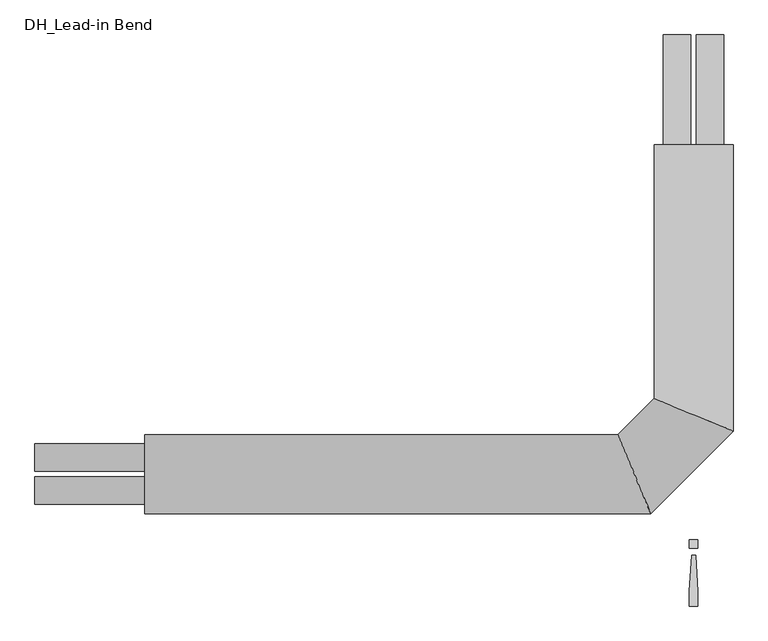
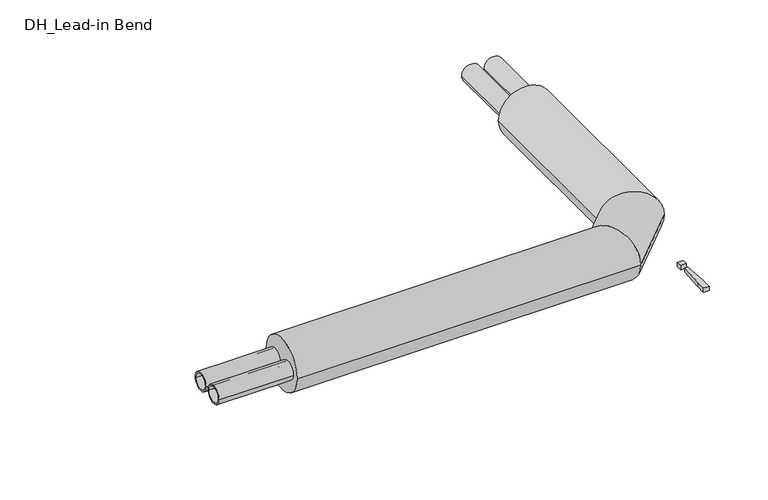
"""IFC4 building model written with IfcOpenShell, lengths in millimetres: pipe fitting geometry, DH_Lead-in Bend : INSULPEX DUO 11 Heating Vertical."""

from ifc_helpers import new_model, si_unit, point, frame, frame_2d, origin, origin_with_axes, place, context, project, spatial, polyline, circle_curve, ellipse_curve, trimmed, segment, composite_curve, outline, extrude, source, transform, mapped, element, save
from ifc_brep_helpers import plane_surface, cylinder_surface, advanced_brep


def dh_lead_in_bend_9b5e54dc(model_context):
    return source(origin(), model_context, "Body", "SolidModel", [
        extrude(outline(composite_curve([segment(trimmed(circle_curve(frame_2d((-37.5, 0.0)), 31.5), [point((-6.0, 0.0))], [point((-69.0, 0.0))], False, "CARTESIAN"), True, "CONTINUOUS"), segment(trimmed(circle_curve(frame_2d((-37.5, 0.0)), 31.5), [point((-69.0, 0.0))], [point((-6.0, 0.0))], False, "CARTESIAN"), True, "CONTINUOUS")], self_intersect=False), holes=[composite_curve([segment(trimmed(circle_curve(frame_2d((-37.5, 0.0)), 25.7), [point((-11.8, 0.0))], [point((-63.2, 0.0))], True, "CARTESIAN"), True, "CONTINUOUS"), segment(trimmed(circle_curve(frame_2d((-37.5, 0.0)), 25.7), [point((-63.2, 0.0))], [point((-11.8, 0.0))], True, "CARTESIAN"), True, "CONTINUOUS")], self_intersect=False)]), frame((-1500.0, 0.0, 0.0), z_axis=(1.0, 0.0, 0.0), x_axis=(0.0, 1.0, 0.0)), (0.0, 0.0, 1.0), 250.0),
        advanced_brep(
        [(-1250.0, -90.0, 0.0), (-1250.0, 90.0, 0.0), (-97.7207794, -90.0, 0.0), (-172.2792206, 90.0, 0.0), (90.0, 750.0, 0.0), (-90.0, 750.0, 0.0), (-90.0, 172.2792206, 0.0), (90.0, 97.7207794, 0.0)],
        [
            (0, 1, circle_curve(frame((-1250.0, 0.0, 0.0), z_axis=(-1.0, 0.0, 0.0), x_axis=(0.0, 1.0, 0.0)), 90.0)),
            (1, 0, circle_curve(frame((-1250.0, 0.0, 0.0), z_axis=(-1.0, 0.0, 0.0), x_axis=(0.0, 1.0, 0.0)), 90.0)),
            (0, 2),
            (2, 3, ellipse_curve(frame((-135.0, 0.0, 0.0), z_axis=(-0.9238795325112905, -0.3826834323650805, 0.0), x_axis=(-0.38268343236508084, 0.9238795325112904, 0.0)), 97.415298, 90.0)),
            (3, 1),
            (3, 2, ellipse_curve(frame((-135.0, 0.0, 0.0), z_axis=(-0.9238795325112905, -0.3826834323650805, 0.0), x_axis=(-0.38268343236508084, 0.9238795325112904, 0.0)), 97.415298, 90.0)),
            (4, 5, circle_curve(frame((0.0, 750.0, 0.0), z_axis=(0.0, 1.0, 0.0), x_axis=(-1.0, 0.0, 0.0)), 90.0)),
            (5, 4, circle_curve(frame((0.0, 750.0, 0.0), z_axis=(0.0, 1.0, 0.0), x_axis=(-1.0, 0.0, 0.0)), 90.0)),
            (6, 7, ellipse_curve(frame((0.0, 135.0, 0.0), z_axis=(0.382683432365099, 0.923879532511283, 0.0), x_axis=(0.923879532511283, -0.3826834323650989, 0.0)), 97.415298, 90.0)),
            (7, 4),
            (5, 6),
            (7, 6, ellipse_curve(frame((0.0, 135.0, 0.0), z_axis=(0.382683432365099, 0.923879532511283, 0.0), x_axis=(0.923879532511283, -0.3826834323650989, 0.0)), 97.415298, 90.0)),
            (2, 7),
            (6, 3),
        ],
        [
            plane_surface(frame((-1250.0, 0.0, 0.0), z_axis=(-1.0, 0.0, 0.0), x_axis=(0.0, 0.0, 1.0))),
            cylinder_surface(frame((-1250.0, 0.0, 0.0), z_axis=(-1.0, 0.0, 0.0), x_axis=(0.0, 1.0, 0.0)), 90.0),
            plane_surface(frame((0.0, 750.0, 0.0), z_axis=(0.0, 1.0, 0.0), x_axis=(0.0, 0.0, 1.0))),
            cylinder_surface(frame((0.0, 135.0, 0.0), z_axis=(0.0, -1.0, 0.0), x_axis=(-1.0, 0.0, 0.0)), 90.0),
            cylinder_surface(frame((-135.0, 0.0, 0.0), z_axis=(-0.7071067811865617, -0.7071067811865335, 0.0), x_axis=(-0.7071067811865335, 0.7071067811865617, 0.0)), 90.0),
        ],
        [
            (0, [[1, 2]]),
            (1, [[-1, 3, 4, 5]]),
            (1, [[-2, -5, 6, -3]]),
            (2, [[7, 8]]),
            (3, [[9, 10, -8, 11]]),
            (3, [[12, -11, -7, -10]]),
            (4, [[-4, 13, -9, 14]]),
            (4, [[-6, -14, -12, -13]]),
        ],
    ),
        extrude(outline(composite_curve([segment(trimmed(circle_curve(frame_2d((0.0, -37.5)), 31.5), [point((0.0, -6.0))], [point((0.0, -69.0))], False, "CARTESIAN"), True, "CONTINUOUS"), segment(trimmed(circle_curve(frame_2d((0.0, -37.5)), 31.5), [point((0.0, -69.0))], [point((0.0, -6.0))], False, "CARTESIAN"), True, "CONTINUOUS")], self_intersect=False), holes=[composite_curve([segment(trimmed(circle_curve(frame_2d((0.0, -37.5)), 25.7), [point((0.0, -11.8))], [point((0.0, -63.2))], True, "CARTESIAN"), True, "CONTINUOUS"), segment(trimmed(circle_curve(frame_2d((0.0, -37.5)), 25.7), [point((0.0, -63.2))], [point((0.0, -11.8))], True, "CARTESIAN"), True, "CONTINUOUS")], self_intersect=False)]), frame((0.0, 750.0, 0.0), z_axis=(0.0, 1.0, 0.0), x_axis=(0.0, 0.0, 1.0)), (0.0, 0.0, 1.0), 250.0),
        extrude(outline(composite_curve([segment(trimmed(circle_curve(frame_2d((37.5, 0.0)), 31.5), [point((6.0, 0.0))], [point((69.0, 0.0))], False, "CARTESIAN"), True, "CONTINUOUS"), segment(trimmed(circle_curve(frame_2d((37.5, 0.0)), 31.5), [point((69.0, 0.0))], [point((6.0, 0.0))], False, "CARTESIAN"), True, "CONTINUOUS")], self_intersect=False), holes=[composite_curve([segment(trimmed(circle_curve(frame_2d((37.5, 0.0)), 25.7), [point((11.8, 0.0))], [point((63.2, 0.0))], True, "CARTESIAN"), True, "CONTINUOUS"), segment(trimmed(circle_curve(frame_2d((37.5, 0.0)), 25.7), [point((63.2, 0.0))], [point((11.8, 0.0))], True, "CARTESIAN"), True, "CONTINUOUS")], self_intersect=False)]), frame((-1500.0, 0.0, 0.0), z_axis=(1.0, 0.0, 0.0), x_axis=(0.0, 1.0, 0.0)), (0.0, 0.0, 1.0), 250.0),
        extrude(outline(composite_curve([segment(trimmed(circle_curve(frame_2d((0.0, 37.5)), 31.5), [point((0.0, 6.0))], [point((0.0, 69.0))], False, "CARTESIAN"), True, "CONTINUOUS"), segment(trimmed(circle_curve(frame_2d((0.0, 37.5)), 31.5), [point((0.0, 69.0))], [point((0.0, 6.0))], False, "CARTESIAN"), True, "CONTINUOUS")], self_intersect=False), holes=[composite_curve([segment(trimmed(circle_curve(frame_2d((0.0, 37.5)), 25.7), [point((0.0, 11.8))], [point((0.0, 63.2))], True, "CARTESIAN"), True, "CONTINUOUS"), segment(trimmed(circle_curve(frame_2d((0.0, 37.5)), 25.7), [point((0.0, 63.2))], [point((0.0, 11.8))], True, "CARTESIAN"), True, "CONTINUOUS")], self_intersect=False)]), frame((0.0, 750.0, 0.0), z_axis=(0.0, 1.0, 0.0), x_axis=(0.0, 0.0, 1.0)), (0.0, 0.0, 1.0), 250.0),
        extrude(outline(polyline([(4.7088895, -185.3166715), (9.4177791, -266.6553807), (9.4177791, -300.6844652), (-9.4177791, -300.6844652), (-9.4177791, -266.6553807), (-4.7088895, -185.3166715), (4.7088895, -185.3166715)])), origin_with_axes(), (0.0, 0.0, 1.0), 15.0),
        extrude(outline(polyline([(9.4177791, -150.0), (9.4177791, -168.8355582), (-9.4177791, -168.8355582), (-9.4177791, -150.0), (9.4177791, -150.0)])), origin_with_axes(), (0.0, 0.0, 1.0), 15.0),
    ])


if __name__ == "__main__":
    model = new_model("IFC4")
    model_context = context("Model", 3, world=origin())
    ifc_project = project(units=[si_unit("LENGTHUNIT", "METRE", prefix="MILLI")], contexts=[model_context])
    site = spatial("IfcSite", under=ifc_project)
    building = spatial("IfcBuilding", under=site)
    placement = place(None, origin())
    dh_lead_in_bend_shape = dh_lead_in_bend_9b5e54dc(model_context)
    element("IfcPipeFitting", 1, ObjectType="DH_Lead-in Bend : INSULPEX DUO 11 Heating Vertical", at=placement, inside=building, context=model_context, shape_type="MappedRepresentation", body=[
        mapped(dh_lead_in_bend_shape, transform((0.0, 0.0, 0.0), x_axis=(1.0, 0.0, 0.0), y_axis=(0.0, 1.0, 0.0), z_axis=(0.0, 0.0, 1.0))),
    ])
    save(model, "model.ifc")
